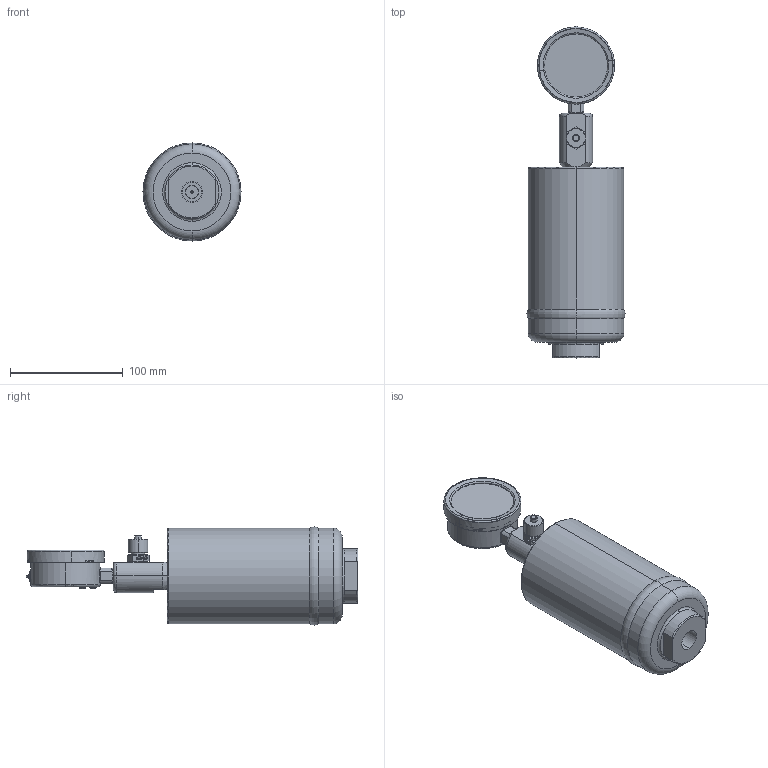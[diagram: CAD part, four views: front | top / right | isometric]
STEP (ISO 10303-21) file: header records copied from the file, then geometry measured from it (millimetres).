
FILE_DESCRIPTION (( 'STEP AP214' ), '1' );
FILE_NAME ('U003G18X1-AI (DGA).STEP', '2025-05-14T14:49:56', ( '' ), ( '' ), 'SwSTEP 2.0', 'SolidWorks 2024', '' );
FILE_SCHEMA (( 'AUTOMOTIVE_DESIGN' ));
Length unit declared in the file: millimetre
Products named in the file (1): U003G18X1-AI (DGA)
Bounding box: 87.08 x 294.5 x 87.08 mm (x, y, z)
Surface area: 102615.2 mm2 (no closed solid volume)
Topology: 0 solids, 14 shells, 380 faces, 976 edges, 607 vertices
Faces by surface type: cylinder 113, plane 106, cone 57, torus 56, bspline 36, sphere 12
Entity records: 16338 total; most frequent: CARTESIAN_POINT 2978, DIRECTION 1989, ORIENTED_EDGE 1787, EDGE_CURVE 968, AXIS2_PLACEMENT_3D 820, VERTEX_POINT 607, CIRCLE 475, EDGE_LOOP 432
